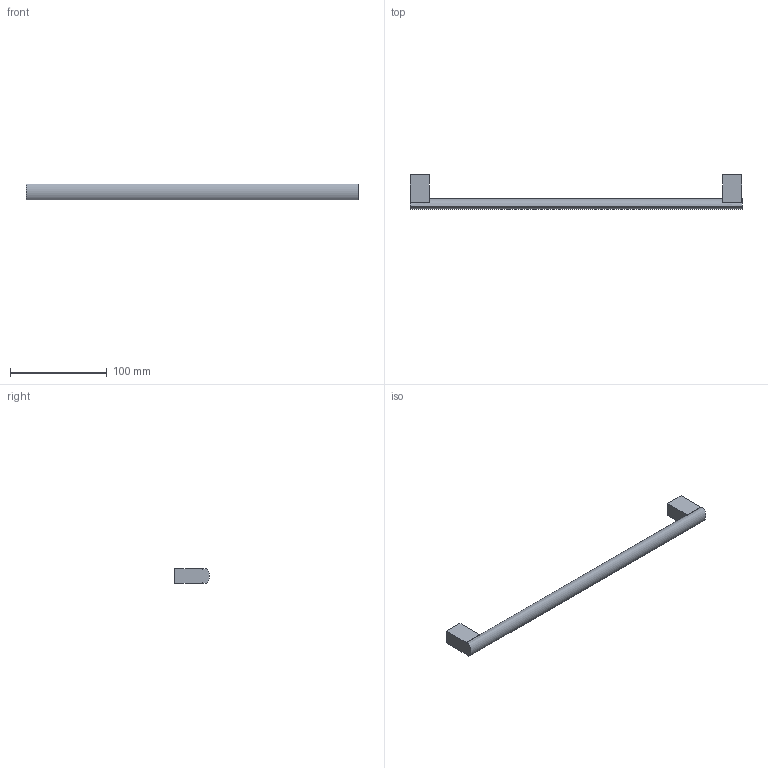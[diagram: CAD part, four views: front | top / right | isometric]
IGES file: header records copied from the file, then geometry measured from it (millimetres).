
Start section: Data from Parasolid IGES Translator 20.0.26, Copyright(c) 2006 Siemens P LM Software. All Rights Reserved.
Global section: file name: 115358.igs; native system: By Siemens PLM Incorporated; preprocessor: XPlus GENERIC/IGES 20.0.26; author: Noname; organization: Noname; date: 20230220.161717; units: millimetre
Bounding box: 344 x 35.96 x 16 mm (x, y, z)
Surface area: 18998.2 mm2 (no closed solid volume)
Topology: 0 solids, 0 shells, 22 faces, 102 edges, 100 vertices
Faces by surface type: extrusion 17, revolution 5
